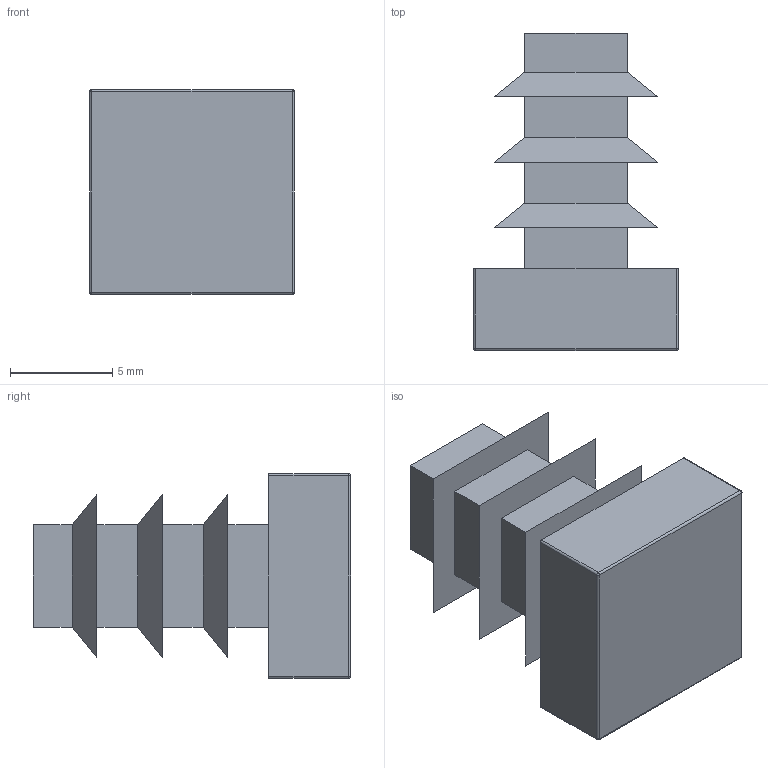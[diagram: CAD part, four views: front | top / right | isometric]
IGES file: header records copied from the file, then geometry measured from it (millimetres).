
Start section: SolidWorks IGES file using analytic representation for surfaces
Global section: file name: C:\HEMSIDA\cad\SLDPRT_2015\ifr\\ifr_10.igs; native system: SolidWorks 2015; preprocessor: SolidWorks 2015; author: Magnus; date: 150818.111746; units: millimetre
Bounding box: 10 x 15.5 x 10 mm (x, y, z)
Surface area: 920.4 mm2 (no closed solid volume)
Topology: 0 solids, 0 shells, 55 faces, 256 edges, 252 vertices
Faces by surface type: bspline 43, revolution 12
